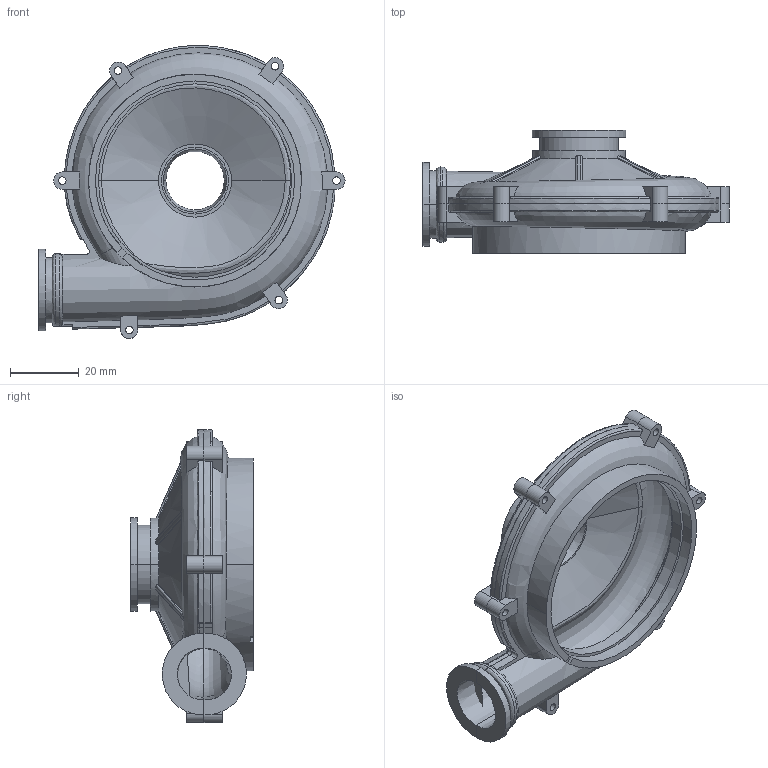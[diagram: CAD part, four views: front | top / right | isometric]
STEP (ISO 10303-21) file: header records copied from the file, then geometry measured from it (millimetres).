
FILE_DESCRIPTION((''),'2;1');
FILE_NAME('8060-00_ASM','2025-10-31T17:24:17',('pc'),(''),'CREO PARAMETRIC BY PTC INC, 2018050','CREO PARAMETRIC BY PTC INC, 2018050','');
FILE_SCHEMA(('CONFIG_CONTROL_DESIGN','GEOMETRIC_VALIDATION_PROPERTIES_MIM'));
Length unit declared in the file: millimetre
Products named in the file (3): 001; 8060-00_ASM
Assembly tree (2 placements, depth 2):
  8060-00_ASM
    001
    001
Bounding box: 89.16 x 35.79 x 85.33 mm (x, y, z)
Volume: 27432.8 mm3; surface area: 29020.7 mm2
Topology: 2 solids, 2 shells, 311 faces, 892 edges, 588 vertices
Faces by surface type: plane 142, cylinder 74, bspline 43, extrusion 28, cone 20, revolution 2, torus 1, sphere 1
Entity records: 33716 total; most frequent: CARTESIAN_POINT 20929, ORIENTED_EDGE 1784, DIRECTION 1242, PRESENTATION_STYLE_ASSIGNMENT 1235, STYLED_ITEM 1235, CURVE_STYLE 922, EDGE_CURVE 892, VERTEX_POINT 588
